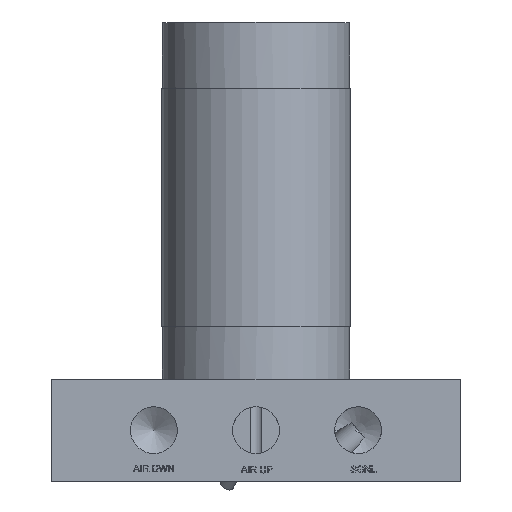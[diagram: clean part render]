
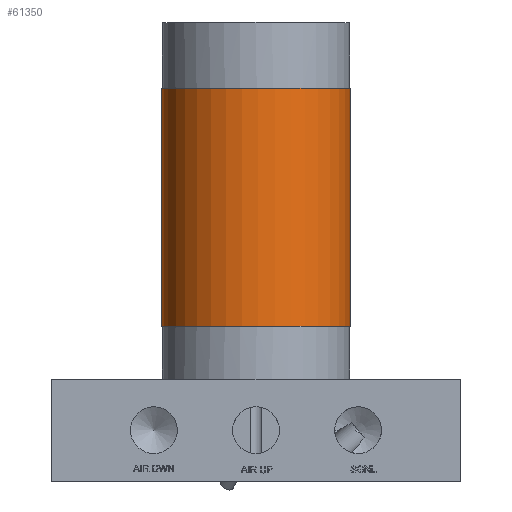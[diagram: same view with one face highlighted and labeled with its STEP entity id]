
A CAD part, front view. The second image highlights one B-rep face of the part: STEP entity #61350.
In plain terms, the highlighted cylindrical face has radius 17.59 mm (diameter 35.179 mm), a full revolution.
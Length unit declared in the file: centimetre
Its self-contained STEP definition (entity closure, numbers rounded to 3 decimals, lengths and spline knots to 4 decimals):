
#3618=FACE_OUTER_BOUND('',#7596,.T.);
#7596=EDGE_LOOP('',(#38353,#38354,#38355,#38356));
#14853=LINE('',#86330,#16862);
#16862=VECTOR('',#71551,1.759);
#18906=CIRCLE('',#65532,1.759);
#18909=CIRCLE('',#65536,1.759);
#23217=VERTEX_POINT('',#86316);
#23220=VERTEX_POINT('',#86323);
#28875=EDGE_CURVE('',#23217,#23217,#18906,.T.);
#28878=EDGE_CURVE('',#23220,#23220,#18909,.T.);
#28881=EDGE_CURVE('',#23220,#23217,#14853,.T.);
#38353=ORIENTED_EDGE('',*,*,#28878,.T.);
#38354=ORIENTED_EDGE('',*,*,#28881,.T.);
#38355=ORIENTED_EDGE('',*,*,#28875,.F.);
#38356=ORIENTED_EDGE('',*,*,#28881,.F.);
#56675=CYLINDRICAL_SURFACE('',#65539,1.759);
#61350=ADVANCED_FACE('',(#3618),#56675,.T.);
#65532=AXIS2_PLACEMENT_3D('',#86317,#71535,#71536);
#65536=AXIS2_PLACEMENT_3D('',#86324,#71543,#71544);
#65539=AXIS2_PLACEMENT_3D('',#86329,#71549,#71550);
#71535=DIRECTION('center_axis',(0.,0.,
-1.));
#71536=DIRECTION('ref_axis',(-1.,-0.026,0.));
#71543=DIRECTION('center_axis',(0.,0.,
-1.));
#71544=DIRECTION('ref_axis',(-1.,-0.026,0.));
#71549=DIRECTION('center_axis',(0.,0.,
1.));
#71550=DIRECTION('ref_axis',(-1.,-0.026,0.));
#71551=DIRECTION('',(0.,0.,-1.));
#86316=CARTESIAN_POINT('',(1.7583,0.046,2.8892));
#86317=CARTESIAN_POINT('Origin',(0.,0.,
2.8892));
#86323=CARTESIAN_POINT('',(1.7583,0.046,7.3342));
#86324=CARTESIAN_POINT('Origin',(0.,0.,
7.3342));
#86329=CARTESIAN_POINT('Origin',(0.,0.,
2.8892));
#86330=CARTESIAN_POINT('',(1.7583,0.046,2.8892));
